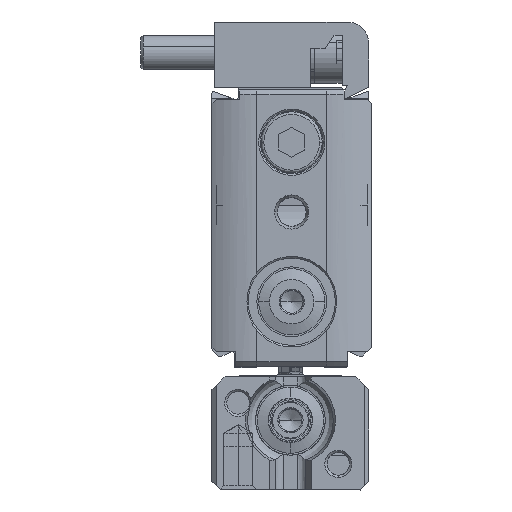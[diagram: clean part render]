
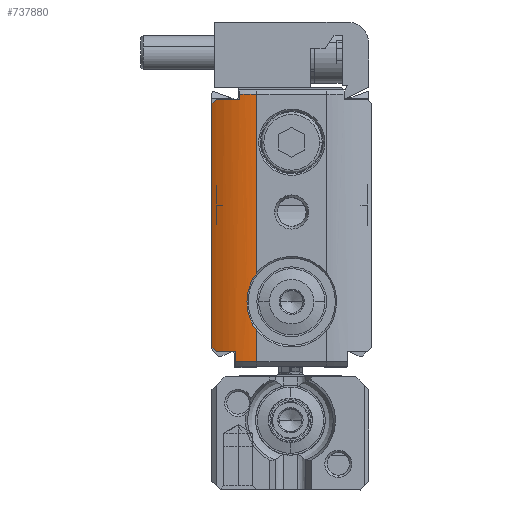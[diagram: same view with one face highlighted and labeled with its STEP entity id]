
A CAD part, left-side view. The second image highlights one B-rep face of the part: STEP entity #737880.
In plain terms, the highlighted cylindrical face has radius 10 mm (diameter 20 mm), a partial arc.
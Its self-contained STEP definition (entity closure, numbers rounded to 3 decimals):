
#732210=CARTESIAN_POINT('',(-513.638,34.15,
-50.083));
#732220=VERTEX_POINT('',#732210);
#732710=CARTESIAN_POINT('',(-513.333,31.7,
-50.083));
#732720=VERTEX_POINT('',#732710);
#732750=CARTESIAN_POINT('',(-503.638,34.15,
-50.083));
#732760=DIRECTION('',(0.,0.,-1.));
#732770=DIRECTION('',(0.,-1.,0.));
#732780=AXIS2_PLACEMENT_3D('',#732750,#732760,#732770);
#732790=CIRCLE('',#732780,10.);
#732800=EDGE_CURVE('',#732720,#732220,#732790,.T.);
#736370=CARTESIAN_POINT('',(-503.638,34.15,
-51.283));
#736380=DIRECTION('',(0.,0.,-1.));
#736390=DIRECTION('',(0.,-1.,0.));
#736400=AXIS2_PLACEMENT_3D('',#736370,#736380,#736390);
#736410=CIRCLE('',#736400,10.);
#736420=CARTESIAN_POINT('',(-512.491,29.5,
-51.283));
#736430=VERTEX_POINT('',#736420);
#736440=CARTESIAN_POINT('',(-513.333,31.7,
-51.283));
#736450=VERTEX_POINT('',#736440);
#736460=EDGE_CURVE('',#736430,#736450,#736410,.T.);
#736750=CARTESIAN_POINT('',(-513.333,31.7,
-81.283));
#736760=DIRECTION('',(0.,0.,-1.));
#736770=VECTOR('',#736760,1.);
#736780=LINE('',#736750,#736770);
#736790=EDGE_CURVE('',#732720,#736450,#736780,.T.);
#736860=CARTESIAN_POINT('',(-503.638,34.15,
-81.283));
#736870=DIRECTION('',(0.,0.,-1.));
#736880=DIRECTION('',(0.,-1.,0.));
#736890=AXIS2_PLACEMENT_3D('',#736860,#736870,#736880);
#736900=CYLINDRICAL_SURFACE('',#736890,10.);
#736910=ORIENTED_EDGE('',*,*,#736790,.F.);
#736920=ORIENTED_EDGE('',*,*,#736460,.T.);
#736930=CARTESIAN_POINT('',(-503.638,34.15,
-46.633));
#736940=DIRECTION('',(0.,-0.707,
0.707));
#736950=DIRECTION('',(0.,-0.707,
-0.707));
#736960=AXIS2_PLACEMENT_3D('',#736930,#736940,#736950);
#736970=ELLIPSE('',#736960,14.142,10.);
#736980=CARTESIAN_POINT('',(-512.21,29.,
-51.783));
#736990=VERTEX_POINT('',#736980);
#737000=EDGE_CURVE('',#736430,#736990,#736970,.T.);
#737010=ORIENTED_EDGE('',*,*,#737000,.F.);
#737020=CARTESIAN_POINT('',(-512.21,29.,
-81.283));
#737030=DIRECTION('',(0.,0.,-1.));
#737040=VECTOR('',#737030,1.);
#737050=LINE('',#737020,#737040);
#737060=CARTESIAN_POINT('',(-512.21,29.,
-79.683));
#737070=VERTEX_POINT('',#737060);
#737080=EDGE_CURVE('',#736990,#737070,#737050,.T.);
#737090=ORIENTED_EDGE('',*,*,#737080,.F.);
#737100=CARTESIAN_POINT('',(-503.638,34.15,
-84.833));
#737110=DIRECTION('',(0.,-0.707,
-0.707));
#737120=DIRECTION('',(0.,-0.707,
0.707));
#737130=AXIS2_PLACEMENT_3D('',#737100,#737110,#737120);
#737140=ELLIPSE('',#737130,14.142,10.);
#737150=CARTESIAN_POINT('',(-512.491,29.5,
-80.183));
#737160=VERTEX_POINT('',#737150);
#737170=EDGE_CURVE('',#737070,#737160,#737140,.T.);
#737180=ORIENTED_EDGE('',*,*,#737170,.F.);
#737190=CARTESIAN_POINT('',(-503.638,34.15,
-80.183));
#737200=DIRECTION('',(0.,0.,-1.));
#737210=DIRECTION('',(0.,-1.,0.));
#737220=AXIS2_PLACEMENT_3D('',#737190,#737200,#737210);
#737230=CIRCLE('',#737220,10.);
#737240=CARTESIAN_POINT('',(-513.436,32.15,
-80.183));
#737250=VERTEX_POINT('',#737240);
#737260=EDGE_CURVE('',#737160,#737250,#737230,.T.);
#737270=ORIENTED_EDGE('',*,*,#737260,.F.);
#737280=CARTESIAN_POINT('',(-513.436,32.15,
-81.283));
#737290=DIRECTION('',(0.,0.,-1.));
#737300=VECTOR('',#737290,1.);
#737310=LINE('',#737280,#737300);
#737320=CARTESIAN_POINT('',(-513.436,32.15,
-80.783));
#737330=VERTEX_POINT('',#737320);
#737340=EDGE_CURVE('',#737250,#737330,#737310,.T.);
#737350=ORIENTED_EDGE('',*,*,#737340,.F.);
#737360=CARTESIAN_POINT('',(-503.638,34.15,
-80.783));
#737370=DIRECTION('',(0.,0.,-1.));
#737380=DIRECTION('',(0.,-1.,0.));
#737390=AXIS2_PLACEMENT_3D('',#737360,#737370,#737380);
#737400=CIRCLE('',#737390,10.);
#737410=CARTESIAN_POINT('',(-513.638,34.15,
-80.783));
#737420=VERTEX_POINT('',#737410);
#737430=EDGE_CURVE('',#737330,#737420,#737400,.T.);
#737440=ORIENTED_EDGE('',*,*,#737430,.F.);
#737450=CARTESIAN_POINT('',(-513.638,34.15,
-37.853));
#737460=DIRECTION('',(0.,0.,-1.));
#737470=VECTOR('',#737460,1.);
#737480=LINE('',#737450,#737470);
#737490=CARTESIAN_POINT('',(-513.638,34.15,
-60.306));
#737500=VERTEX_POINT('',#737490);
#737510=EDGE_CURVE('',#737500,#737420,#737480,.T.);
#737520=ORIENTED_EDGE('',*,*,#737510,.T.);
#737530=CARTESIAN_POINT('',(-513.573,33.015,
-56.983));
#737540=CARTESIAN_POINT('',(-513.573,33.015,
-57.28));
#737550=CARTESIAN_POINT('',(-513.576,33.038,
-57.579));
#737560=CARTESIAN_POINT('',(-513.586,33.132,
-58.17));
#737570=CARTESIAN_POINT('',(-513.593,33.202,
-58.462));
#737580=CARTESIAN_POINT('',(-513.609,33.39,
-59.027));
#737590=CARTESIAN_POINT('',(-513.618,33.507,
-59.3));
#737600=CARTESIAN_POINT('',(-513.632,33.792,
-59.826));
#737610=CARTESIAN_POINT('',(-513.638,33.96,
-60.077));
#737620=CARTESIAN_POINT('',(-513.638,34.15,
-60.306));
#737630=B_SPLINE_CURVE_WITH_KNOTS('',3,(#737530,#737540,#737550,#737560,
#737570,#737580,#737590,#737600,#737610,#737620),.UNSPECIFIED.,.F.,.F.,(
4,2,2,2,4),(0.,0.896,1.794,2.688,
3.586),.UNSPECIFIED.);
#737640=CARTESIAN_POINT('',(-513.573,33.015,
-56.983));
#737650=VERTEX_POINT('',#737640);
#737660=EDGE_CURVE('',#737650,#737500,#737630,.T.);
#737670=ORIENTED_EDGE('',*,*,#737660,.T.);
#737680=CARTESIAN_POINT('',(-513.638,34.15,
-53.66));
#737690=CARTESIAN_POINT('',(-513.638,33.96,
-53.89));
#737700=CARTESIAN_POINT('',(-513.632,33.792,
-54.14));
#737710=CARTESIAN_POINT('',(-513.618,33.507,
-54.666));
#737720=CARTESIAN_POINT('',(-513.609,33.39,
-54.939));
#737730=CARTESIAN_POINT('',(-513.593,33.202,
-55.504));
#737740=CARTESIAN_POINT('',(-513.586,33.132,
-55.796));
#737750=CARTESIAN_POINT('',(-513.576,33.038,
-56.388));
#737760=CARTESIAN_POINT('',(-513.573,33.015,
-56.687));
#737770=CARTESIAN_POINT('',(-513.573,33.015,
-56.983));
#737780=B_SPLINE_CURVE_WITH_KNOTS('',3,(#737680,#737690,#737700,#737710,
#737720,#737730,#737740,#737750,#737760,#737770),.UNSPECIFIED.,.F.,.F.,(
4,2,2,2,4),(0.,0.898,1.792,2.69,
3.586),.UNSPECIFIED.);
#737790=CARTESIAN_POINT('',(-513.638,34.15,
-53.66));
#737800=VERTEX_POINT('',#737790);
#737810=EDGE_CURVE('',#737800,#737650,#737780,.T.);
#737820=ORIENTED_EDGE('',*,*,#737810,.T.);
#737830=EDGE_CURVE('',#732220,#737800,#737480,.T.);
#737840=ORIENTED_EDGE('',*,*,#737830,.T.);
#737850=ORIENTED_EDGE('',*,*,#732800,.T.);
#737860=EDGE_LOOP('',(#737850,#737840,#737820,#737670,#737520,#737440,
#737350,#737270,#737180,#737090,#737010,#736920,#736910));
#737870=FACE_OUTER_BOUND('',#737860,.T.);
#737880=ADVANCED_FACE('',(#737870),#736900,.T.);
